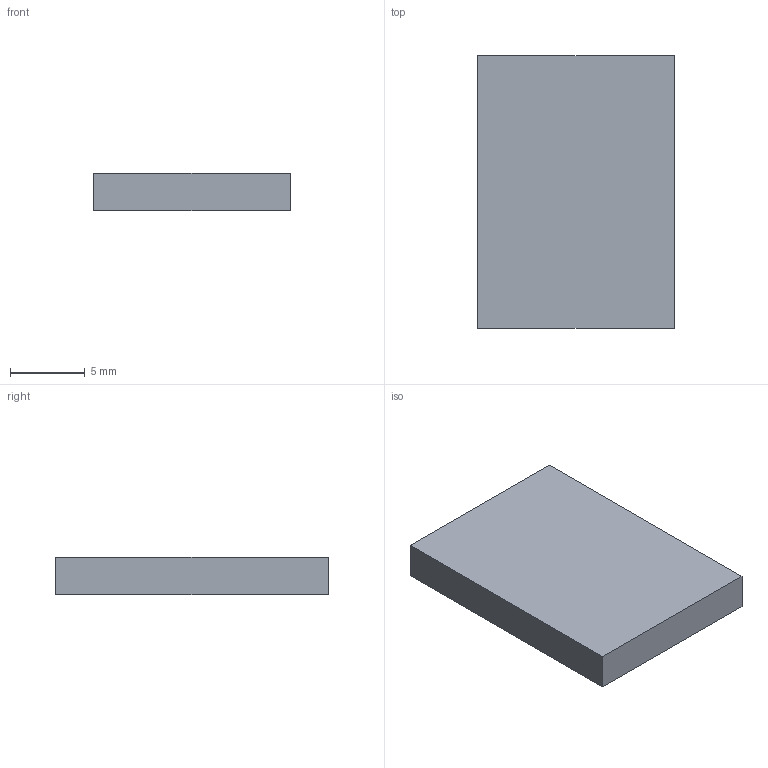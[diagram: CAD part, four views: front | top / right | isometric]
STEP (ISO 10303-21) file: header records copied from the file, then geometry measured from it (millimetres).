
FILE_DESCRIPTION(('Open CASCADE Model'),'2;1');
FILE_NAME('Open CASCADE Shape Model','2026-10-06T03:35:42',('Author'),( 'Open CASCADE'),'Open CASCADE STEP processor 7.8','Open CASCADE 7.8' ,'Unknown');
FILE_SCHEMA(('AUTOMOTIVE_DESIGN { 1 0 10303 214 1 1 1 1 }'));
Length unit declared in the file: millimetre
Products named in the file (1): Open CASCADE STEP translator 7.8 22
Bounding box: 13.2 x 18.3 x 2.49 mm (x, y, z)
Volume: 601.5 mm3; surface area: 640 mm2
Topology: 1 solids, 1 shells, 6 faces, 12 edges, 8 vertices
Faces by surface type: plane 6
Entity records: 322 total; most frequent: CARTESIAN_POINT 51, DIRECTION 50, LINE 36, VECTOR 36, ORIENTED_EDGE 24, PCURVE 24, DEFINITIONAL_REPRESENTATION 24, EDGE_CURVE 12
